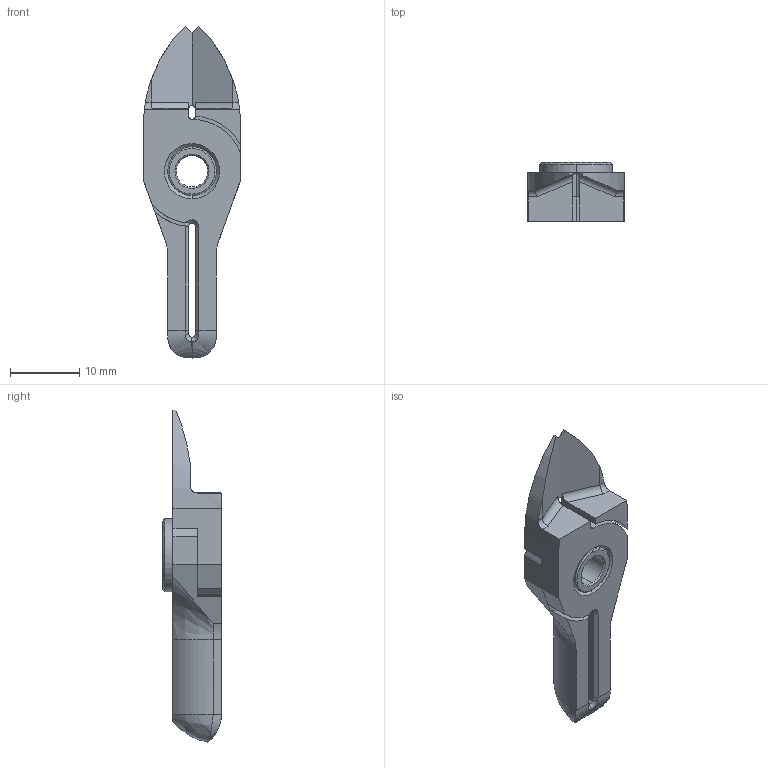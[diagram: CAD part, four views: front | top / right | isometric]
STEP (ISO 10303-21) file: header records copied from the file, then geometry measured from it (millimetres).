
FILE_DESCRIPTION (( 'STEP AP214' ), '1' );
FILE_NAME ('NY03AJT.STEP', '2019-11-28T02:38:40', ( '微软用户' ), ( '微软中国' ), 'SwSTEP 2.0', 'SolidWorks 2016', '' );
FILE_SCHEMA (( 'AUTOMOTIVE_DESIGN' ));
Length unit declared in the file: millimetre
Products named in the file (4): NY03AJT; BR2; BR1; BS
Assembly tree (3 placements, depth 2):
  NY03AJT
    BS
    BR1
    BR2
Bounding box: 14 x 8.5 x 48 mm (x, y, z)
Volume: 2125.8 mm3; surface area: 2715.2 mm2
Topology: 3 solids, 3 shells, 127 faces, 327 edges, 205 vertices
Faces by surface type: plane 39, cylinder 31, bspline 30, cone 23, torus 4
Entity records: 4748 total; most frequent: CARTESIAN_POINT 1753, ORIENTED_EDGE 642, DIRECTION 543, EDGE_CURVE 321, VERTEX_POINT 205, AXIS2_PLACEMENT_3D 195, LINE 153, VECTOR 153
